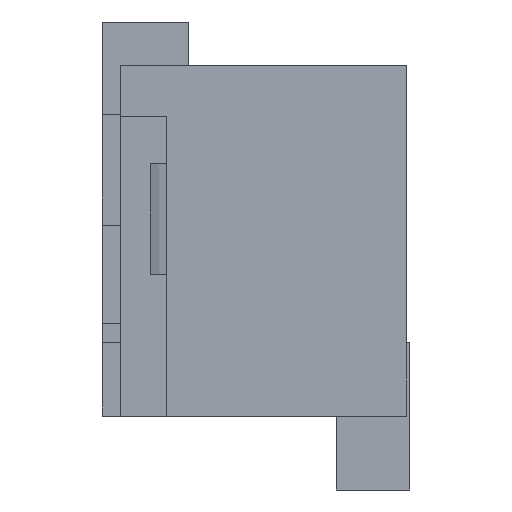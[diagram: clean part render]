
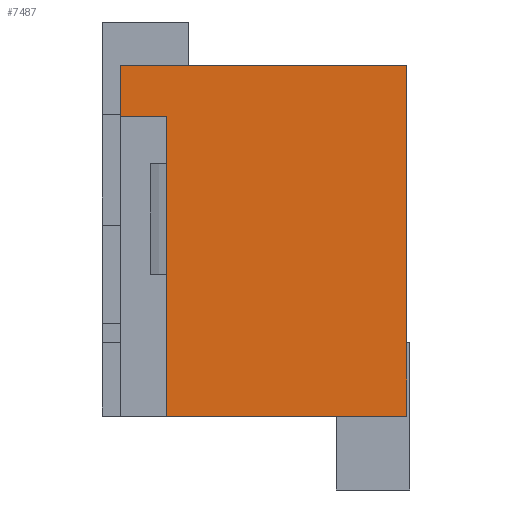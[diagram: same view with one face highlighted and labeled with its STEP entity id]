
A CAD part, front view. The second image highlights one B-rep face of the part: STEP entity #7487.
In plain terms, the highlighted planar face has unit normal (0, -1, 0).
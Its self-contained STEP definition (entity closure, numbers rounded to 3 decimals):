
#2768 = PLANE('',#2769);
#2769 = AXIS2_PLACEMENT_3D('',#2770,#2771,#2772);
#2770 = CARTESIAN_POINT('',(66.4,90.7,12.2));
#2771 = DIRECTION('',(0.,0.,1.));
#2772 = DIRECTION('',(1.,0.,0.));
#3110 = PLANE('',#3111);
#3111 = AXIS2_PLACEMENT_3D('',#3112,#3113,#3114);
#3112 = CARTESIAN_POINT('',(68.258,112.,6.5));
#3113 = DIRECTION('',(-0.,-0.,-1.));
#3114 = DIRECTION('',(-1.,0.,0.));
#5006 = PLANE('',#5007);
#5007 = AXIS2_PLACEMENT_3D('',#5008,#5009,#5010);
#5008 = CARTESIAN_POINT('',(66.4,90.7,6.5));
#5009 = DIRECTION('',(1.,0.,0.));
#5010 = DIRECTION('',(0.,0.,1.));
#5138 = VERTEX_POINT('',#5139);
#5139 = CARTESIAN_POINT('',(66.4,90.7,12.2));
#5160 = EDGE_CURVE('',#5138,#5161,#5163,.T.);
#5161 = VERTEX_POINT('',#5162);
#5162 = CARTESIAN_POINT('',(71.05,90.7,12.2));
#5163 = SURFACE_CURVE('',#5164,(#5168,#5175),.PCURVE_S1.);
#5164 = LINE('',#5165,#5166);
#5165 = CARTESIAN_POINT('',(66.4,90.7,12.2));
#5166 = VECTOR('',#5167,1.);
#5167 = DIRECTION('',(1.,0.,0.));
#5168 = PCURVE('',#2768,#5169);
#5169 = DEFINITIONAL_REPRESENTATION('',(#5170),#5174);
#5170 = LINE('',#5171,#5172);
#5171 = CARTESIAN_POINT('',(0.,0.));
#5172 = VECTOR('',#5173,1.);
#5173 = DIRECTION('',(1.,0.));
#5174 = ( GEOMETRIC_REPRESENTATION_CONTEXT(2) 
PARAMETRIC_REPRESENTATION_CONTEXT() REPRESENTATION_CONTEXT('2D SPACE',''
  ) );
#5175 = PCURVE('',#5176,#5181);
#5176 = PLANE('',#5177);
#5177 = AXIS2_PLACEMENT_3D('',#5178,#5179,#5180);
#5178 = CARTESIAN_POINT('',(66.4,90.7,6.5));
#5179 = DIRECTION('',(0.,1.,0.));
#5180 = DIRECTION('',(0.,0.,1.));
#5181 = DEFINITIONAL_REPRESENTATION('',(#5182),#5186);
#5182 = LINE('',#5183,#5184);
#5183 = CARTESIAN_POINT('',(5.7,0.));
#5184 = VECTOR('',#5185,1.);
#5185 = DIRECTION('',(0.,1.));
#5186 = ( GEOMETRIC_REPRESENTATION_CONTEXT(2) 
PARAMETRIC_REPRESENTATION_CONTEXT() REPRESENTATION_CONTEXT('2D SPACE',''
  ) );
#5204 = PLANE('',#5205);
#5205 = AXIS2_PLACEMENT_3D('',#5206,#5207,#5208);
#5206 = CARTESIAN_POINT('',(71.05,90.7,6.5));
#5207 = DIRECTION('',(1.,0.,0.));
#5208 = DIRECTION('',(0.,0.,1.));
#5520 = PLANE('',#5521);
#5521 = AXIS2_PLACEMENT_3D('',#5522,#5523,#5524);
#5522 = CARTESIAN_POINT('',(67.15,90.,0.));
#5523 = DIRECTION('',(1.,0.,0.));
#5524 = DIRECTION('',(0.,0.,1.));
#5855 = VERTEX_POINT('',#5856);
#5856 = CARTESIAN_POINT('',(71.05,90.7,6.5));
#5877 = EDGE_CURVE('',#5878,#5855,#5880,.T.);
#5878 = VERTEX_POINT('',#5879);
#5879 = CARTESIAN_POINT('',(67.15,90.7,6.5));
#5880 = SURFACE_CURVE('',#5881,(#5885,#5892),.PCURVE_S1.);
#5881 = LINE('',#5882,#5883);
#5882 = CARTESIAN_POINT('',(66.4,90.7,6.5));
#5883 = VECTOR('',#5884,1.);
#5884 = DIRECTION('',(1.,0.,0.));
#5885 = PCURVE('',#3110,#5886);
#5886 = DEFINITIONAL_REPRESENTATION('',(#5887),#5891);
#5887 = LINE('',#5888,#5889);
#5888 = CARTESIAN_POINT('',(1.858,-21.3));
#5889 = VECTOR('',#5890,1.);
#5890 = DIRECTION('',(-1.,0.));
#5891 = ( GEOMETRIC_REPRESENTATION_CONTEXT(2) 
PARAMETRIC_REPRESENTATION_CONTEXT() REPRESENTATION_CONTEXT('2D SPACE',''
  ) );
#5892 = PCURVE('',#5176,#5893);
#5893 = DEFINITIONAL_REPRESENTATION('',(#5894),#5898);
#5894 = LINE('',#5895,#5896);
#5895 = CARTESIAN_POINT('',(0.,0.));
#5896 = VECTOR('',#5897,1.);
#5897 = DIRECTION('',(0.,1.));
#5898 = ( GEOMETRIC_REPRESENTATION_CONTEXT(2) 
PARAMETRIC_REPRESENTATION_CONTEXT() REPRESENTATION_CONTEXT('2D SPACE',''
  ) );
#7373 = EDGE_CURVE('',#7374,#5138,#7376,.T.);
#7374 = VERTEX_POINT('',#7375);
#7375 = CARTESIAN_POINT('',(66.4,90.7,11.365));
#7376 = SURFACE_CURVE('',#7377,(#7381,#7388),.PCURVE_S1.);
#7377 = LINE('',#7378,#7379);
#7378 = CARTESIAN_POINT('',(66.4,90.7,6.5));
#7379 = VECTOR('',#7380,1.);
#7380 = DIRECTION('',(0.,0.,1.));
#7381 = PCURVE('',#5006,#7382);
#7382 = DEFINITIONAL_REPRESENTATION('',(#7383),#7387);
#7383 = LINE('',#7384,#7385);
#7384 = CARTESIAN_POINT('',(0.,0.));
#7385 = VECTOR('',#7386,1.);
#7386 = DIRECTION('',(1.,0.));
#7387 = ( GEOMETRIC_REPRESENTATION_CONTEXT(2) 
PARAMETRIC_REPRESENTATION_CONTEXT() REPRESENTATION_CONTEXT('2D SPACE',''
  ) );
#7388 = PCURVE('',#5176,#7389);
#7389 = DEFINITIONAL_REPRESENTATION('',(#7390),#7394);
#7390 = LINE('',#7391,#7392);
#7391 = CARTESIAN_POINT('',(0.,0.));
#7392 = VECTOR('',#7393,1.);
#7393 = DIRECTION('',(1.,0.));
#7394 = ( GEOMETRIC_REPRESENTATION_CONTEXT(2) 
PARAMETRIC_REPRESENTATION_CONTEXT() REPRESENTATION_CONTEXT('2D SPACE',''
  ) );
#7411 = PLANE('',#7412);
#7412 = AXIS2_PLACEMENT_3D('',#7413,#7414,#7415);
#7413 = CARTESIAN_POINT('',(60.,90.,11.365));
#7414 = DIRECTION('',(0.,0.,1.));
#7415 = DIRECTION('',(1.,0.,0.));
#7487 = ADVANCED_FACE('',(#7488),#5176,.F.);
#7488 = FACE_BOUND('',#7489,.F.);
#7489 = EDGE_LOOP('',(#7490,#7491,#7512,#7531,#7532,#7533));
#7490 = ORIENTED_EDGE('',*,*,#5877,.F.);
#7491 = ORIENTED_EDGE('',*,*,#7492,.F.);
#7492 = EDGE_CURVE('',#7493,#5878,#7495,.T.);
#7493 = VERTEX_POINT('',#7494);
#7494 = CARTESIAN_POINT('',(67.15,90.7,11.365));
#7495 = SURFACE_CURVE('',#7496,(#7500,#7506),.PCURVE_S1.);
#7496 = LINE('',#7497,#7498);
#7497 = CARTESIAN_POINT('',(67.15,90.7,3.25));
#7498 = VECTOR('',#7499,1.);
#7499 = DIRECTION('',(0.,0.,-1.));
#7500 = PCURVE('',#5176,#7501);
#7501 = DEFINITIONAL_REPRESENTATION('',(#7502),#7505);
#7502 = B_SPLINE_CURVE_WITH_KNOTS('',1,(#7503,#7504),.UNSPECIFIED.,.F.,
  .F.,(2,2),(-8.115,-3.25),.PIECEWISE_BEZIER_KNOTS.);
#7503 = CARTESIAN_POINT('',(4.865,0.75));
#7504 = CARTESIAN_POINT('',(0.,0.75));
#7505 = ( GEOMETRIC_REPRESENTATION_CONTEXT(2) 
PARAMETRIC_REPRESENTATION_CONTEXT() REPRESENTATION_CONTEXT('2D SPACE',''
  ) );
#7506 = PCURVE('',#5520,#7507);
#7507 = DEFINITIONAL_REPRESENTATION('',(#7508),#7511);
#7508 = B_SPLINE_CURVE_WITH_KNOTS('',1,(#7509,#7510),.UNSPECIFIED.,.F.,
  .F.,(2,2),(-8.115,-3.25),.PIECEWISE_BEZIER_KNOTS.);
#7509 = CARTESIAN_POINT('',(11.365,-0.7));
#7510 = CARTESIAN_POINT('',(6.5,-0.7));
#7511 = ( GEOMETRIC_REPRESENTATION_CONTEXT(2) 
PARAMETRIC_REPRESENTATION_CONTEXT() REPRESENTATION_CONTEXT('2D SPACE',''
  ) );
#7512 = ORIENTED_EDGE('',*,*,#7513,.F.);
#7513 = EDGE_CURVE('',#7374,#7493,#7514,.T.);
#7514 = SURFACE_CURVE('',#7515,(#7519,#7525),.PCURVE_S1.);
#7515 = LINE('',#7516,#7517);
#7516 = CARTESIAN_POINT('',(63.2,90.7,11.365));
#7517 = VECTOR('',#7518,1.);
#7518 = DIRECTION('',(1.,0.,0.));
#7519 = PCURVE('',#5176,#7520);
#7520 = DEFINITIONAL_REPRESENTATION('',(#7521),#7524);
#7521 = B_SPLINE_CURVE_WITH_KNOTS('',1,(#7522,#7523),.UNSPECIFIED.,.F.,
  .F.,(2,2),(3.2,3.95),.PIECEWISE_BEZIER_KNOTS.);
#7522 = CARTESIAN_POINT('',(4.865,0.));
#7523 = CARTESIAN_POINT('',(4.865,0.75));
#7524 = ( GEOMETRIC_REPRESENTATION_CONTEXT(2) 
PARAMETRIC_REPRESENTATION_CONTEXT() REPRESENTATION_CONTEXT('2D SPACE',''
  ) );
#7525 = PCURVE('',#7411,#7526);
#7526 = DEFINITIONAL_REPRESENTATION('',(#7527),#7530);
#7527 = B_SPLINE_CURVE_WITH_KNOTS('',1,(#7528,#7529),.UNSPECIFIED.,.F.,
  .F.,(2,2),(3.2,3.95),.PIECEWISE_BEZIER_KNOTS.);
#7528 = CARTESIAN_POINT('',(6.4,0.7));
#7529 = CARTESIAN_POINT('',(7.15,0.7));
#7530 = ( GEOMETRIC_REPRESENTATION_CONTEXT(2) 
PARAMETRIC_REPRESENTATION_CONTEXT() REPRESENTATION_CONTEXT('2D SPACE',''
  ) );
#7531 = ORIENTED_EDGE('',*,*,#7373,.T.);
#7532 = ORIENTED_EDGE('',*,*,#5160,.T.);
#7533 = ORIENTED_EDGE('',*,*,#7534,.F.);
#7534 = EDGE_CURVE('',#5855,#5161,#7535,.T.);
#7535 = SURFACE_CURVE('',#7536,(#7540,#7547),.PCURVE_S1.);
#7536 = LINE('',#7537,#7538);
#7537 = CARTESIAN_POINT('',(71.05,90.7,6.5));
#7538 = VECTOR('',#7539,1.);
#7539 = DIRECTION('',(0.,0.,1.));
#7540 = PCURVE('',#5176,#7541);
#7541 = DEFINITIONAL_REPRESENTATION('',(#7542),#7546);
#7542 = LINE('',#7543,#7544);
#7543 = CARTESIAN_POINT('',(0.,4.65));
#7544 = VECTOR('',#7545,1.);
#7545 = DIRECTION('',(1.,0.));
#7546 = ( GEOMETRIC_REPRESENTATION_CONTEXT(2) 
PARAMETRIC_REPRESENTATION_CONTEXT() REPRESENTATION_CONTEXT('2D SPACE',''
  ) );
#7547 = PCURVE('',#5204,#7548);
#7548 = DEFINITIONAL_REPRESENTATION('',(#7549),#7553);
#7549 = LINE('',#7550,#7551);
#7550 = CARTESIAN_POINT('',(0.,0.));
#7551 = VECTOR('',#7552,1.);
#7552 = DIRECTION('',(1.,0.));
#7553 = ( GEOMETRIC_REPRESENTATION_CONTEXT(2) 
PARAMETRIC_REPRESENTATION_CONTEXT() REPRESENTATION_CONTEXT('2D SPACE',''
  ) );
